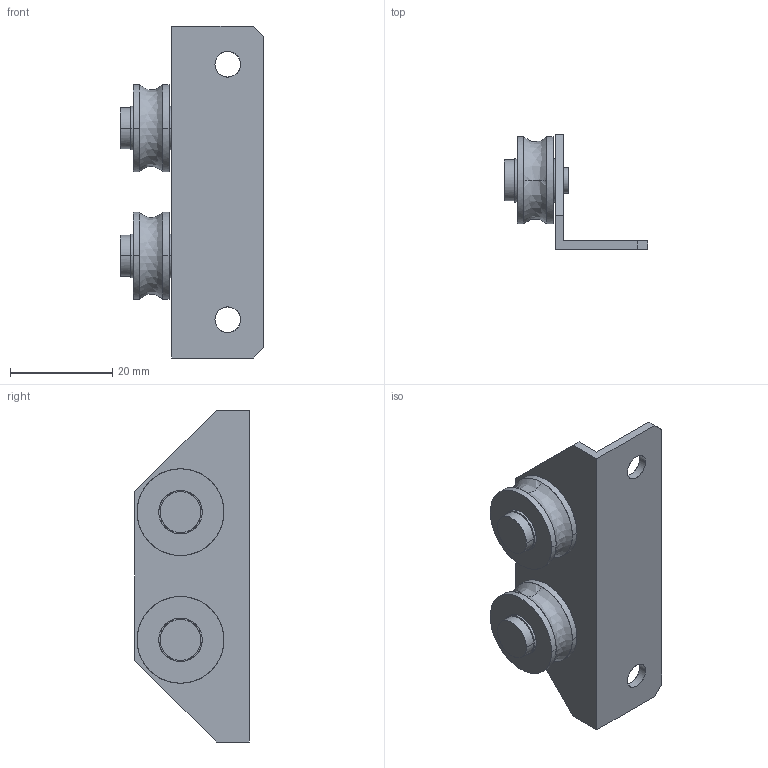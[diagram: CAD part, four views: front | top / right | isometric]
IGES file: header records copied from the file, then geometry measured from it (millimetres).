
Global section: file name: No Iges File Name specified; native system: AutoDesk Inventor R11.0; preprocessor: AutoDesk Inventor Iges Exporter R11.0; author: No Author specified; organization: No Organization specified; date: 20190511.110800; units: millimetre
Bounding box: 28 x 22.5 x 65 mm (x, y, z)
Surface area: 6689.9 mm2 (no closed solid volume)
Topology: 0 solids, 0 shells, 60 faces, 404 edges, 404 vertices
Faces by surface type: bspline 60
